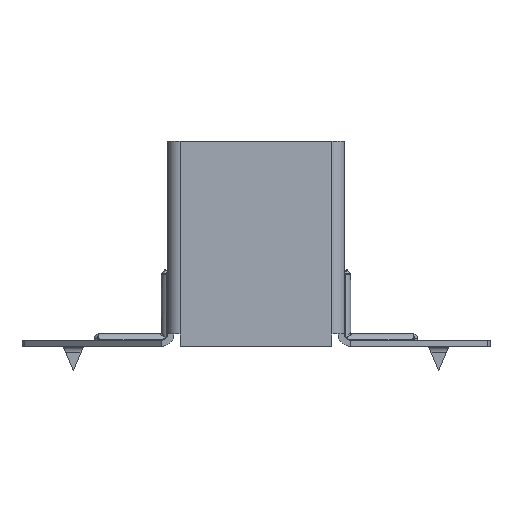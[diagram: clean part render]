
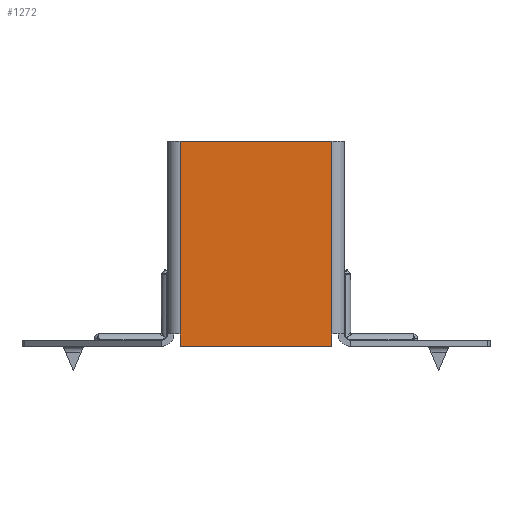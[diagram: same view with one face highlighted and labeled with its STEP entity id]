
A CAD part, front view. The second image highlights one B-rep face of the part: STEP entity #1272.
In plain terms, the highlighted planar face has unit normal (0, -1, 0).
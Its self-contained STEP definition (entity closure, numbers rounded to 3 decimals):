
#453 = LINE ( 'NONE', #789, #2921 ) ;
#617 = ORIENTED_EDGE ( 'NONE', *, *, #1020, .T. ) ;
#640 = DIRECTION ( 'NONE',  ( 0., 0., 1. ) ) ;
#701 = ORIENTED_EDGE ( 'NONE', *, *, #16309, .T. ) ;
#789 = CARTESIAN_POINT ( 'NONE',  ( 18.5, 0., -70. ) ) ;
#1020 = EDGE_CURVE ( 'NONE', #17673, #19199, #22068, .T. ) ;
#1169 = ORIENTED_EDGE ( 'NONE', *, *, #10008, .F. ) ;
#1272 = ADVANCED_FACE ( 'NONE', ( #9864 ), #22504, .F. ) ;
#2921 = VECTOR ( 'NONE', #640, 1000. ) ;
#3331 = CARTESIAN_POINT ( 'NONE',  ( 18.5, 0., -70. ) ) ;
#3464 = DIRECTION ( 'NONE',  ( 0., 0., -1. ) ) ;
#3833 = DIRECTION ( 'NONE',  ( 0., 0., -1. ) ) ;
#4120 = LINE ( 'NONE', #12165, #10799 ) ;
#5023 = VERTEX_POINT ( 'NONE', #13572 ) ;
#5143 = VECTOR ( 'NONE', #19413, 1000. ) ;
#6513 = CARTESIAN_POINT ( 'NONE',  ( 18.5, 0., -70. ) ) ;
#6553 = CARTESIAN_POINT ( 'NONE',  ( 18.5, 0., -67. ) ) ;
#6711 = CARTESIAN_POINT ( 'NONE',  ( -18.5, 0., -20. ) ) ;
#6818 = VECTOR ( 'NONE', #8417, 1000. ) ;
#7169 = CARTESIAN_POINT ( 'NONE',  ( -18.5, 0., 0. ) ) ;
#7273 = VERTEX_POINT ( 'NONE', #6513 ) ;
#7333 = EDGE_CURVE ( 'NONE', #19199, #10268, #4120, .T. ) ;
#7490 = VECTOR ( 'NONE', #3833, 1000. ) ;
#8417 = DIRECTION ( 'NONE',  ( -1., 0., 0. ) ) ;
#8555 = AXIS2_PLACEMENT_3D ( 'NONE', #11941, #19411, #15986 ) ;
#9773 = EDGE_LOOP ( 'NONE', ( #20504, #701, #14381, #1169, #22387, #617 ) ) ;
#9864 = FACE_OUTER_BOUND ( 'NONE', #9773, .T. ) ;
#10008 = EDGE_CURVE ( 'NONE', #7273, #5023, #19327, .T. ) ;
#10268 = VERTEX_POINT ( 'NONE', #6711 ) ;
#10465 = CARTESIAN_POINT ( 'NONE',  ( -18.5, 0., 0. ) ) ;
#10799 = VECTOR ( 'NONE', #17820, 1000. ) ;
#10861 = VECTOR ( 'NONE', #3464, 1000. ) ;
#10895 = EDGE_CURVE ( 'NONE', #7273, #17673, #453, .T. ) ;
#11941 = CARTESIAN_POINT ( 'NONE',  ( 0., 0., 0. ) ) ;
#12165 = CARTESIAN_POINT ( 'NONE',  ( 0., 0., -20. ) ) ;
#12265 = CARTESIAN_POINT ( 'NONE',  ( -20., 0., -70. ) ) ;
#13572 = CARTESIAN_POINT ( 'NONE',  ( -18.5, 0., -70. ) ) ;
#14142 = CARTESIAN_POINT ( 'NONE',  ( -18.5, 0., -67. ) ) ;
#14381 = ORIENTED_EDGE ( 'NONE', *, *, #17827, .T. ) ;
#15545 = CARTESIAN_POINT ( 'NONE',  ( 18.5, 0., -20. ) ) ;
#15986 = DIRECTION ( 'NONE',  ( 0., 0., 1. ) ) ;
#16047 = VERTEX_POINT ( 'NONE', #14142 ) ;
#16309 = EDGE_CURVE ( 'NONE', #10268, #16047, #21425, .T. ) ;
#17673 = VERTEX_POINT ( 'NONE', #6553 ) ;
#17820 = DIRECTION ( 'NONE',  ( -1., 0., 0. ) ) ;
#17827 = EDGE_CURVE ( 'NONE', #16047, #5023, #19716, .T. ) ;
#19199 = VERTEX_POINT ( 'NONE', #15545 ) ;
#19327 = LINE ( 'NONE', #12265, #6818 ) ;
#19411 = DIRECTION ( 'NONE',  ( 0., 1., 0. ) ) ;
#19413 = DIRECTION ( 'NONE',  ( 0., 0., 1. ) ) ;
#19716 = LINE ( 'NONE', #7169, #7490 ) ;
#20504 = ORIENTED_EDGE ( 'NONE', *, *, #7333, .T. ) ;
#21425 = LINE ( 'NONE', #10465, #10861 ) ;
#22068 = LINE ( 'NONE', #3331, #5143 ) ;
#22387 = ORIENTED_EDGE ( 'NONE', *, *, #10895, .T. ) ;
#22504 = PLANE ( 'NONE',  #8555 ) ;
